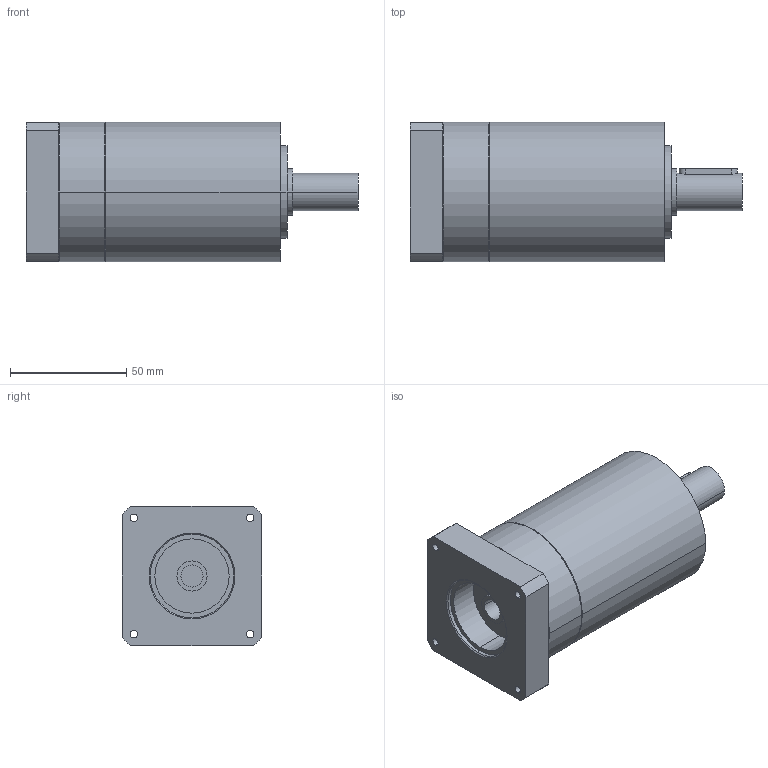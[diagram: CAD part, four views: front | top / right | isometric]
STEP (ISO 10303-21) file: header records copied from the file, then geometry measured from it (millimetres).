
FILE_DESCRIPTION(('CoCreate Modeling STEP Export'),'2;1');
FILE_NAME('GPR75_ig-9-12-16-20-24-30-36_16_B14_9.52_P35.stp','2014-08-25T16:07:06',(''),(''),'CoCreate Modeling STEP processor for AP214 (Solid Model)','CoCreate Modeling 16.00C 25-Feb-2009 (C) Parametric Technology GmbH','');
FILE_SCHEMA(('AUTOMOTIVE_DESIGN { 1 0 10303 214 1 1 1 1 }'));
Length unit declared in the file: millimetre
Products named in the file (2): GPR75_ig-9-12-16-20-24-30-36_16_B14_9.52_P35
Assembly tree (1 placements, depth 2):
  GPR75_ig-9-12-16-20-24-30-36_16_B14_9.52_P35
    GPR75_ig-9-12-16-20-24-30-36_16_B14_9.52_P35
Bounding box: 142.9 x 60 x 60 mm (x, y, z)
Volume: 316281.1 mm3; surface area: 34087.8 mm2
Topology: 1 solids, 1 shells, 72 faces, 187 edges, 129 vertices
Faces by surface type: cylinder 42, plane 22, cone 8
Entity records: 1954 total; most frequent: ORIENTED_EDGE 370, CARTESIAN_POINT 361, DIRECTION 268, EDGE_CURVE 185, VERTEX_POINT 129, AXIS2_PLACEMENT_3D 100, EDGE_LOOP 94, FACE_OUTER_BOUND 72
